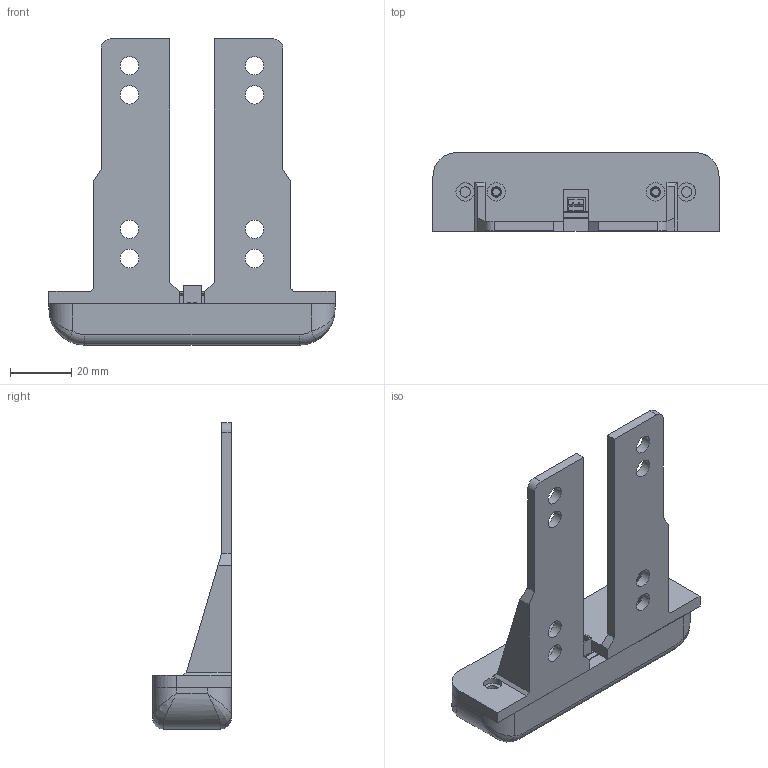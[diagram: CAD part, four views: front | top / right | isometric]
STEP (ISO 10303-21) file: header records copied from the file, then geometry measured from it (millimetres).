
FILE_DESCRIPTION(/* description */ (''),/* implementation_level */ '2;1');
FILE_NAME(/* name */ 'D:/_My Docs on T530/Matt''s Homework/Projects/GitHub/TTL-HW/STEPs/Tail Light v2 v8.step',/* time_stamp */ '2021-03-21T23:39:08-04:00',/* author */ (''),/* organization */ (''),/* preprocessor_version */ 'ST-DEVELOPER v18.1',/* originating_system */ 'Autodesk Translation Framework v9.10.0.1330',/* authorisation */ '');
FILE_SCHEMA (('AUTOMOTIVE_DESIGN { 1 0 10303 214 3 1 1 }'));
Length unit declared in the file: millimetre
Products named in the file (9): Tail Light v2; Cover Tail; Light Mount; Tail Lights; PCB Component; Board; RED_CREE_LED; 51; JST_PH_2POS
Assembly tree (10 placements, depth 4):
  Tail Light v2
    Cover Tail
    Light Mount
    Tail Lights
      PCB Component
        Board
        RED_CREE_LED  x3
        51
        JST_PH_2POS
Bounding box: 93.55 x 25.7 x 100.13 mm (x, y, z)
Volume: 43612.5 mm3; surface area: 29357.2 mm2
Topology: 5 solids, 275 shells, 997 faces, 2488 edges, 1645 vertices
Faces by surface type: plane 881, cylinder 94, bspline 18, torus 4
Full cylindrical faces by diameter (mm): 0.35 x28, 0.8 x2, 2.5 x2, 2.8 x2, 3.4 x4, 4 x2, 6 x12, 6.5 x2
Entity records: 18607 total; most frequent: CARTESIAN_POINT 4992, DIRECTION 2573, ORIENTED_EDGE 2320, EDGE_CURVE 1364, LINE 1109, VECTOR 1109, VERTEX_POINT 893, AXIS2_PLACEMENT_3D 732
